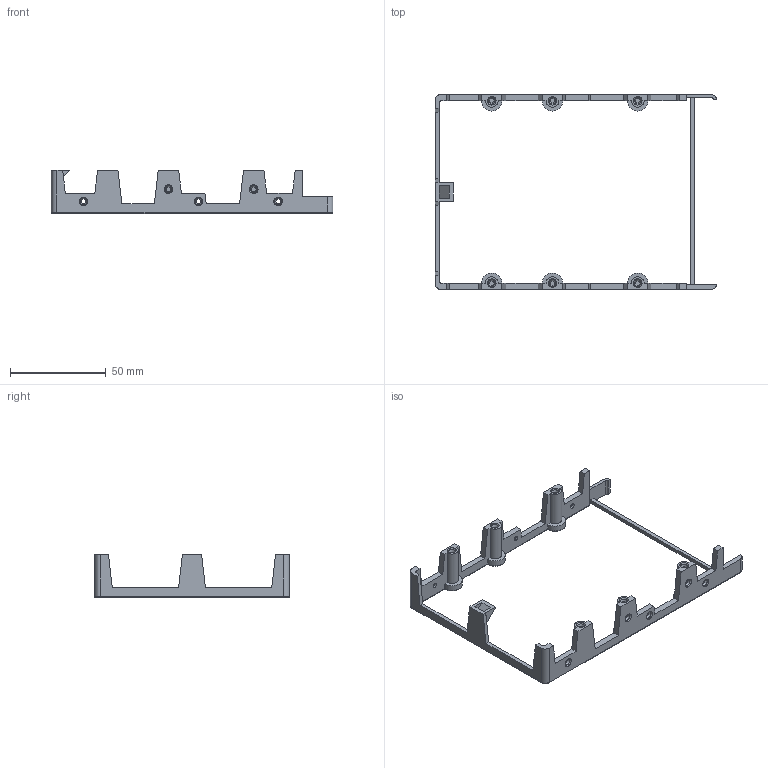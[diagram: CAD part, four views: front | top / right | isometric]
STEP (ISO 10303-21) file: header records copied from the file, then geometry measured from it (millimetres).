
FILE_DESCRIPTION(/* description */ (''),/* implementation_level */ '2;1');
FILE_NAME(/* name */ 'E:/OneDrive/projects/3.5 Hard Drive 50-pin SCSI PCB/123d design/New folder/3.5 Hard Drive Case 50-pin SCSI ED bottom cover openings.stp',/* time_stamp */ '2022-01-04T23:39:47-05:00',/* author */ (''),/* organization */ (''),/* preprocessor_version */ 'ST-DEVELOPER v15.2',/* originating_system */ 'Autodesk Translator Framework v2.0.0.5431',/* authorisation */ '');
FILE_SCHEMA (('AUTOMOTIVE_DESIGN { 1 0 10303 214 3 1 1 }'));
Length unit declared in the file: centimetre
Products named in the file (1): 3.5 Hard Drive Case 50-pin SCSI ED bottom cover openings
Bounding box: 147 x 101.6 x 22.5 mm (x, y, z)
Volume: 16085.5 mm3; surface area: 15152.9 mm2
Topology: 1 solids, 1 shells, 206 faces, 514 edges, 326 vertices
Faces by surface type: plane 97, cylinder 53, cone 44, torus 12
Full cylindrical faces by diameter (mm): 2.5 x6, 2.54 x16
Entity records: 5807 total; most frequent: CARTESIAN_POINT 1123, DIRECTION 982, ORIENTED_EDGE 864, EDGE_CURVE 432, AXIS2_PLACEMENT_3D 357, VERTEX_POINT 310, EDGE_LOOP 302, LINE 268
